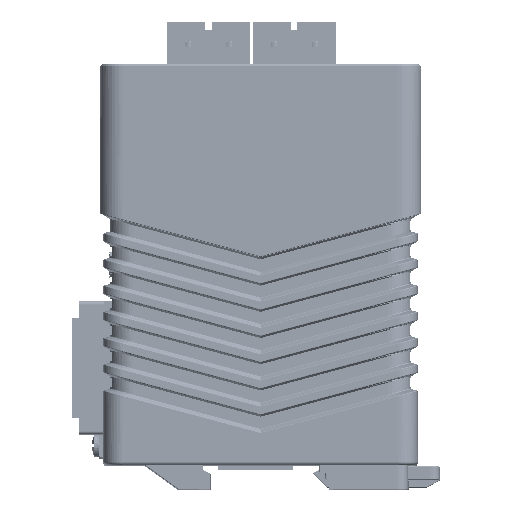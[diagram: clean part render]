
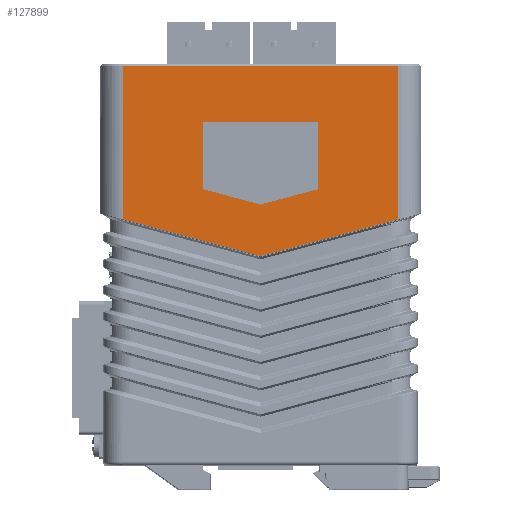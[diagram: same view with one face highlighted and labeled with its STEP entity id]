
A CAD part, left-side view. The second image highlights one B-rep face of the part: STEP entity #127899.
In plain terms, the highlighted planar face has unit normal (-1, 0, 0).
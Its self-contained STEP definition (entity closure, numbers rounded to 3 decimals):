
#11165 = DIRECTION ( 'NONE',  ( 0., 0., -1. ) ) ;
#15742 = ORIENTED_EDGE ( 'NONE', *, *, #231649, .T. ) ;
#32919 = ORIENTED_EDGE ( 'NONE', *, *, #41455, .F. ) ;
#37065 = CARTESIAN_POINT ( 'NONE',  ( -28.535, -41.83, -46.983 ) ) ;
#41455 = EDGE_CURVE ( 'NONE', #239436, #319246, #500205, .T. ) ;
#44646 = LINE ( 'NONE', #185872, #552169 ) ;
#49327 = VECTOR ( 'NONE', #160053, 1000. ) ;
#49505 = CARTESIAN_POINT ( 'NONE',  ( -28.535, 41.895, 0.25 ) ) ;
#76267 = EDGE_CURVE ( 'NONE', #193444, #168201, #450088, .T. ) ;
#95382 = AXIS2_PLACEMENT_3D ( 'NONE', #413355, #178025, #142408 ) ;
#96726 = CARTESIAN_POINT ( 'NONE',  ( -28.535, 17.503, -17.482 ) ) ;
#127899 = ADVANCED_FACE ( 'NONE', ( #277946, #457534 ), #545816, .F. ) ;
#141827 = LINE ( 'NONE', #183181, #215941 ) ;
#142408 = DIRECTION ( 'NONE',  ( 0., 0., -1. ) ) ;
#147226 = CARTESIAN_POINT ( 'NONE',  ( -28.535, -17.503, -37.817 ) ) ;
#148341 = LINE ( 'NONE', #328141, #483145 ) ;
#160053 = DIRECTION ( 'NONE',  ( 0., -0.966, 0.259 ) ) ;
#160753 = VERTEX_POINT ( 'NONE', #249911 ) ;
#168201 = VERTEX_POINT ( 'NONE', #204702 ) ;
#178025 = DIRECTION ( 'NONE',  ( 1., 0., 0. ) ) ;
#183181 = CARTESIAN_POINT ( 'NONE',  ( -28.535, -17.503, -17.482 ) ) ;
#185872 = CARTESIAN_POINT ( 'NONE',  ( -28.535, -17.503, -37.817 ) ) ;
#188299 = ORIENTED_EDGE ( 'NONE', *, *, #76267, .T. ) ;
#192608 = LINE ( 'NONE', #466300, #49327 ) ;
#193444 = VERTEX_POINT ( 'NONE', #267014 ) ;
#197465 = VECTOR ( 'NONE', #582161, 1000. ) ;
#204702 = CARTESIAN_POINT ( 'NONE',  ( -28.535, 41.895, -46.965 ) ) ;
#210440 = CARTESIAN_POINT ( 'NONE',  ( -28.535, 17.503, -37.817 ) ) ;
#211842 = EDGE_LOOP ( 'NONE', ( #188299, #501682, #291889, #437832, #15742 ) ) ;
#215941 = VECTOR ( 'NONE', #318776, 1000. ) ;
#219574 = LINE ( 'NONE', #37065, #538617 ) ;
#221359 = DIRECTION ( 'NONE',  ( 0., 0., 1. ) ) ;
#221759 = CARTESIAN_POINT ( 'NONE',  ( -28.535, 0., -58.191 ) ) ;
#229158 = DIRECTION ( 'NONE',  ( 0., 0., -1. ) ) ;
#231649 = EDGE_CURVE ( 'NONE', #362150, #193444, #148341, .T. ) ;
#232724 = VERTEX_POINT ( 'NONE', #433238 ) ;
#239436 = VERTEX_POINT ( 'NONE', #563189 ) ;
#245287 = ORIENTED_EDGE ( 'NONE', *, *, #331421, .F. ) ;
#249911 = CARTESIAN_POINT ( 'NONE',  ( -28.535, -17.503, -17.482 ) ) ;
#264308 = LINE ( 'NONE', #526400, #197465 ) ;
#267014 = CARTESIAN_POINT ( 'NONE',  ( -28.535, 41.895, -0.354 ) ) ;
#277946 = FACE_BOUND ( 'NONE', #470883, .T. ) ;
#279831 = VECTOR ( 'NONE', #11165, 1000. ) ;
#291889 = ORIENTED_EDGE ( 'NONE', *, *, #379126, .T. ) ;
#299519 = VECTOR ( 'NONE', #229158, 1000. ) ;
#301778 = DIRECTION ( 'NONE',  ( 0., -0.966, -0.259 ) ) ;
#307780 = CARTESIAN_POINT ( 'NONE',  ( -28.535, 17.503, -37.817 ) ) ;
#308282 = EDGE_CURVE ( 'NONE', #328040, #160753, #44646, .T. ) ;
#318776 = DIRECTION ( 'NONE',  ( 0., 1., 0. ) ) ;
#319246 = VERTEX_POINT ( 'NONE', #307780 ) ;
#328040 = VERTEX_POINT ( 'NONE', #147226 ) ;
#328141 = CARTESIAN_POINT ( 'NONE',  ( -28.535, 41.895, -0.354 ) ) ;
#331421 = EDGE_CURVE ( 'NONE', #579886, #328040, #192608, .T. ) ;
#340711 = DIRECTION ( 'NONE',  ( 0., -0.966, -0.259 ) ) ;
#362150 = VERTEX_POINT ( 'NONE', #554252 ) ;
#372359 = VERTEX_POINT ( 'NONE', #221759 ) ;
#379126 = EDGE_CURVE ( 'NONE', #372359, #232724, #219574, .T. ) ;
#386629 = ORIENTED_EDGE ( 'NONE', *, *, #452190, .F. ) ;
#413355 = CARTESIAN_POINT ( 'NONE',  ( -28.535, 41.895, 0.25 ) ) ;
#431960 = CARTESIAN_POINT ( 'NONE',  ( -28.535, -0.065, -58.209 ) ) ;
#432461 = VECTOR ( 'NONE', #301778, 1000. ) ;
#433238 = CARTESIAN_POINT ( 'NONE',  ( -28.535, -41.895, -46.965 ) ) ;
#437832 = ORIENTED_EDGE ( 'NONE', *, *, #441130, .F. ) ;
#441130 = EDGE_CURVE ( 'NONE', #362150, #232724, #264308, .T. ) ;
#446845 = ORIENTED_EDGE ( 'NONE', *, *, #453014, .F. ) ;
#450088 = LINE ( 'NONE', #49505, #299519 ) ;
#452190 = EDGE_CURVE ( 'NONE', #319246, #579886, #478436, .T. ) ;
#453014 = EDGE_CURVE ( 'NONE', #160753, #239436, #141827, .T. ) ;
#457534 = FACE_OUTER_BOUND ( 'NONE', #211842, .T. ) ;
#466300 = CARTESIAN_POINT ( 'NONE',  ( -28.535, 0., -42.506 ) ) ;
#470883 = EDGE_LOOP ( 'NONE', ( #32919, #446845, #476490, #245287, #386629 ) ) ;
#476490 = ORIENTED_EDGE ( 'NONE', *, *, #308282, .F. ) ;
#478436 = LINE ( 'NONE', #210440, #432461 ) ;
#483145 = VECTOR ( 'NONE', #507627, 1000. ) ;
#500205 = LINE ( 'NONE', #96726, #279831 ) ;
#501682 = ORIENTED_EDGE ( 'NONE', *, *, #532626, .T. ) ;
#507627 = DIRECTION ( 'NONE',  ( 0., 1., 0. ) ) ;
#517320 = LINE ( 'NONE', #431960, #571791 ) ;
#517937 = CARTESIAN_POINT ( 'NONE',  ( -28.535, 0., -42.506 ) ) ;
#526400 = CARTESIAN_POINT ( 'NONE',  ( -28.535, -41.895, 0.25 ) ) ;
#528709 = DIRECTION ( 'NONE',  ( 0., -0.966, 0.259 ) ) ;
#532626 = EDGE_CURVE ( 'NONE', #168201, #372359, #517320, .T. ) ;
#538617 = VECTOR ( 'NONE', #528709, 1000. ) ;
#545816 = PLANE ( 'NONE',  #95382 ) ;
#552169 = VECTOR ( 'NONE', #221359, 1000. ) ;
#554252 = CARTESIAN_POINT ( 'NONE',  ( -28.535, -41.895, -0.354 ) ) ;
#563189 = CARTESIAN_POINT ( 'NONE',  ( -28.535, 17.503, -17.482 ) ) ;
#571791 = VECTOR ( 'NONE', #340711, 1000. ) ;
#579886 = VERTEX_POINT ( 'NONE', #517937 ) ;
#582161 = DIRECTION ( 'NONE',  ( 0., 0., -1. ) ) ;
